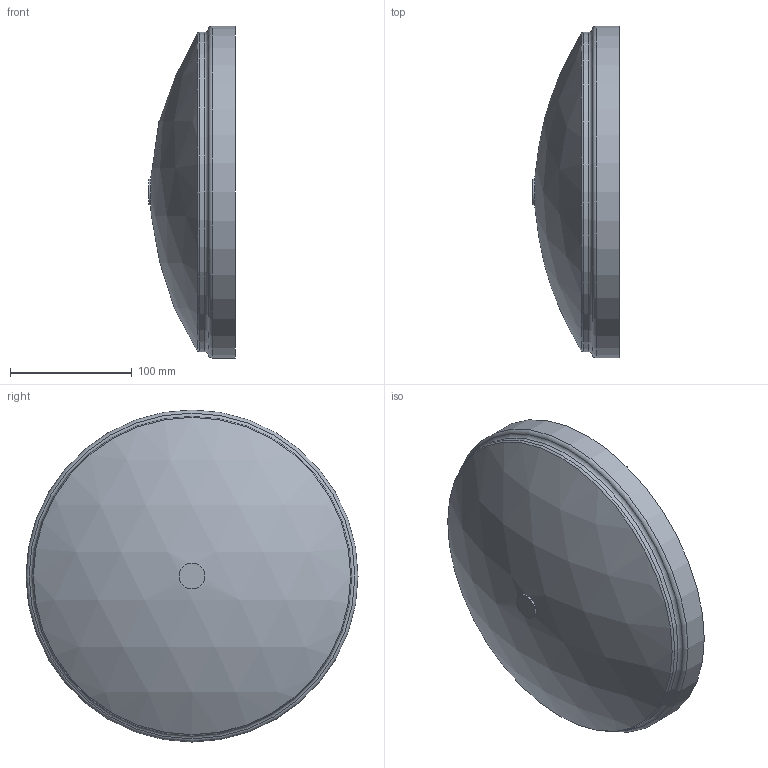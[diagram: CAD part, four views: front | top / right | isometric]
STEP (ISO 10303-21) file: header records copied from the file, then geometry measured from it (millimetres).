
FILE_DESCRIPTION(/* description */ ('VIC STRENGTHIN CAP No E496 w/Tap 1/2 inch BSPT (Concentric)','CAx-IF Rec.Pracs.---Representation and Presentation of Product Manufacturing Information (PMI)---4.0---2014-10-13'),/* implementation_level */ '2;1');
FILE_NAME(/* name */ 'C:\Users\Vjadhav\AppData\Roaming\Autodesk\ApplicationPlugins\Back Up\Victaulic_SS-StrengThin 100_Cap With Tap_No E496 (ST1)\Victaulic_SS-StrengThin 100_Cap With Tap_No E496 (ST1)_10.0x0.5 (250x15).stp',/* time_stamp */ '2020-07-07T18:47:17+05:00',/* author */ ('jheald'),/* organization */ ('Victaulic'),/* preprocessor_version */ 'ST-DEVELOPER v17.2',/* originating_system */ 'Autodesk Inventor 2019',/* authorisation */ '');
FILE_SCHEMA (('CONFIG_CONTROL_DESIGN','TECHNICAL_DATA_PACKAGING','AP242_MANAGED_MODEL_BASED_3D_ENGINEERING_MIM_LF { 1 0 10303 442 1 1 4 }'));
Length unit declared in the file: inch
Products named in the file (1): E496-10.0x0.5
Bounding box: 71.12 x 273.05 x 273.05 mm (x, y, z)
Volume: 645130.3 mm3; surface area: 167345.8 mm2
Topology: 1 solids, 1 shells, 12 faces, 27 edges, 19 vertices
Faces by surface type: cylinder 4, torus 4, plane 2, sphere 2
Full cylindrical faces by diameter (mm): 21.336 x1, 254.508 x1, 262.636 x1, 273.05 x1
Entity records: 502 total; most frequent: DIRECTION 102, CARTESIAN_POINT 76, ORIENTED_EDGE 54, AXIS2_PLACEMENT_3D 49, EDGE_CURVE 27, CIRCLE 23, VERTEX_POINT 19, EDGE_LOOP 14
